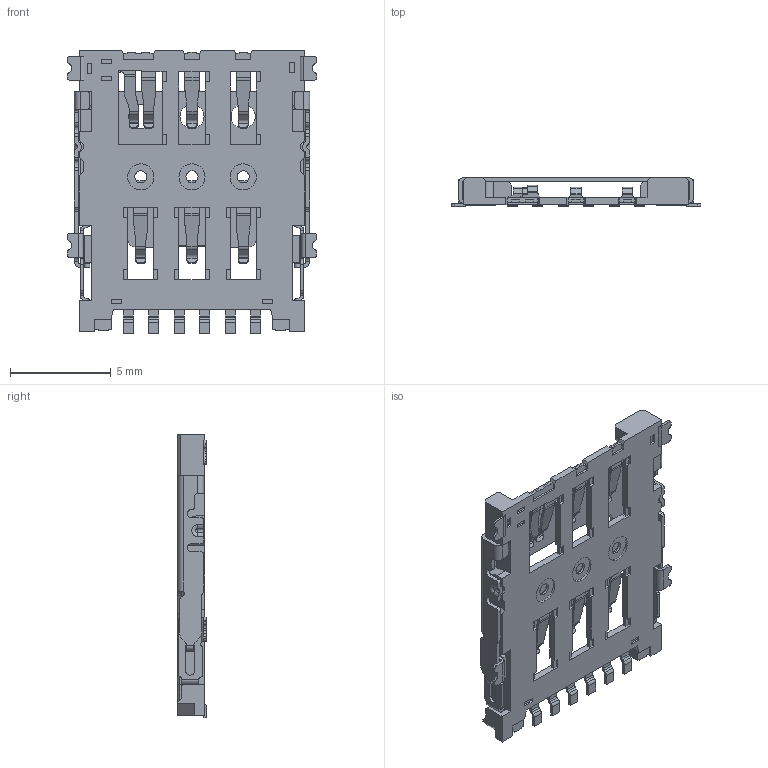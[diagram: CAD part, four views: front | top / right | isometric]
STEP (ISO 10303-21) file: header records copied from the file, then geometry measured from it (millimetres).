
FILE_DESCRIPTION (( 'STEP AP203' ), '1' );
FILE_NAME ('NS143-T1151-01_2023-06-26.stp', '2023-07-21T23:56:49', ( '' ), ( '' ), 'SwSTEP 2.0', 'SolidWorks 2023', '' );
FILE_SCHEMA (( 'CONFIG_CONTROL_DESIGN' ));
Length unit declared in the file: millimetre
Products named in the file (1): NS143-T1151-01_2023-06-26
Bounding box: 12.4 x 1.43 x 14.1 mm (x, y, z)
Volume: 80.7 mm3; surface area: 571.9 mm2
Topology: 1 solids, 1 shells, 1164 faces, 3320 edges, 2230 vertices
Faces by surface type: plane 804, cylinder 311, bspline 37, cone 4, sphere 4, torus 4
Entity records: 40032 total; most frequent: CARTESIAN_POINT 9376, ORIENTED_EDGE 6560, DIRECTION 6114, EDGE_CURVE 3280, LINE 2566, VECTOR 2566, VERTEX_POINT 2150, AXIS2_PLACEMENT_3D 1774
